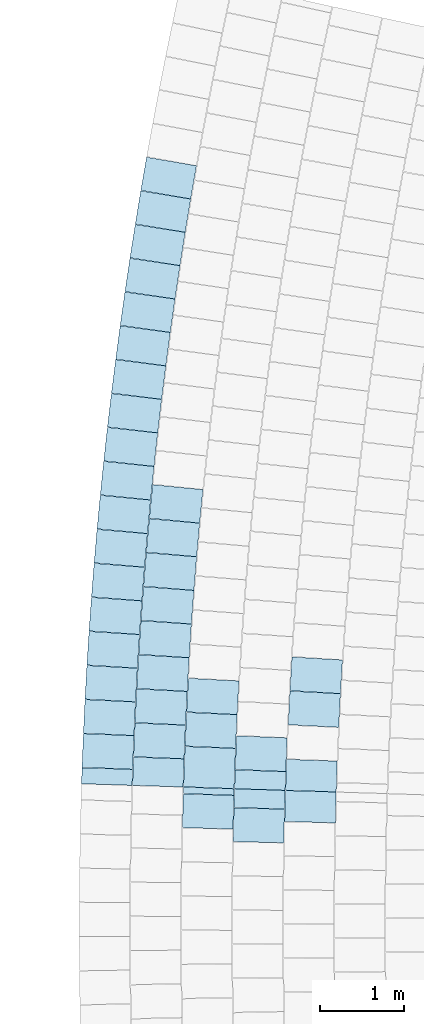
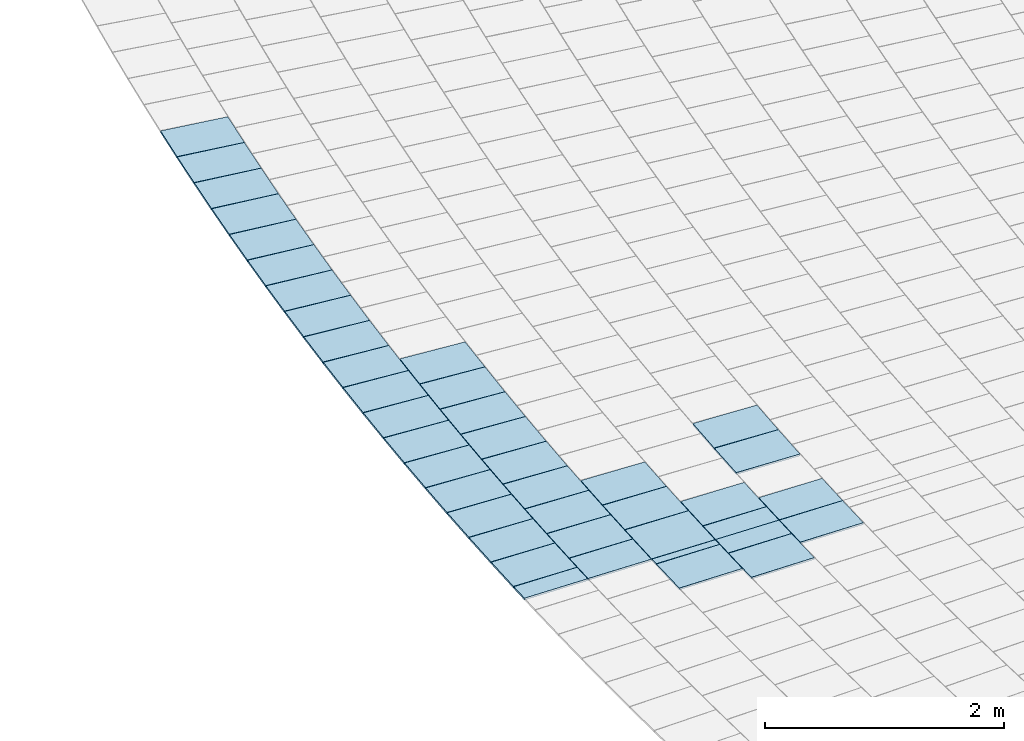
# One storey, part 85 of 438: 41 slabs.
"""IFC2X3 building model written with IfcOpenShell, lengths in millimetres."""

import ifcopenshell
import ifcopenshell.guid

model = None  # the IFC model being written
_history = None  # IfcOwnerHistory: only IFC2X3 demands one
_inside = {}  # id of a spatial element -> (the spatial element, [elements in it])
_under = {}  # id of a project, library or spatial element -> (it, [spatial elements below it])
_declared = {}  # id of a project -> (the project, [libraries it declares])
_typed = {}  # id of a type object -> (the type object, [elements of that type])
_made_of = {}  # id of a material, layer set ... -> (it, [elements and type objects made of it])


def new_model(schema):
    """Start an empty IFC model of exactly this schema.

    Asked for "IFC4X3", IfcOpenShell would pick the latest addendum, in which some entities
    have other attributes; the version numbers below select the first issue.
    IFC2X3 requires an IfcOwnerHistory on every rooted entity: one is made here for all.
    """
    global model, _history
    if schema == "IFC4X3":
        model = ifcopenshell.file(schema_version=(4, 3, 0, 0))
    else:
        model = ifcopenshell.file(schema=schema)
    _inside.clear()
    _under.clear()
    _declared.clear()
    _typed.clear()
    _made_of.clear()
    _history = None
    if model.schema == "IFC2X3":
        org = make("IfcOrganization", Name="unknown")
        user = make(
            "IfcPersonAndOrganization",
            ThePerson=make("IfcPerson", FamilyName="unknown"),
            TheOrganization=org,
        )
        app = make(
            "IfcApplication",
            ApplicationDeveloper=org,
            Version="unknown",
            ApplicationFullName="unknown",
            ApplicationIdentifier="unknown",
        )
        _history = make(
            "IfcOwnerHistory",
            OwningUser=user,
            OwningApplication=app,
            ChangeAction="ADDED",
            CreationDate=0,
        )
    return model


def make(cls, **values):
    """One entity of the class cls with the attributes given. An attribute that is None is left unset."""
    return model.create_entity(
        cls, **{name: value for name, value in values.items() if value is not None}
    )


def entity(cls, *values):
    """Any entity or typed value of the class cls, its attributes in the order of the schema. None: left unset."""
    e = model.create_entity(cls)
    for i, value in enumerate(values):
        if value is not None:
            e[i] = value
    return e


def rooted(cls, **values):
    """An entity with a GlobalId (a new one), such as an element, a storey or a relation."""
    return make(cls, GlobalId=ifcopenshell.guid.new(), OwnerHistory=_history, **values)


def si_unit(unit_type, name, prefix=None):
    """IfcSIUnit, for example si_unit("LENGTHUNIT", "METRE", prefix="MILLI")."""
    return make("IfcSIUnit", UnitType=unit_type, Prefix=prefix, Name=name)


def converted_unit(unit_type, name, factor, base, dimensions=None, offset=None):
    """IfcConversionBasedUnit, such as the inch: factor (a typed value) times the base unit."""
    return make(
        "IfcConversionBasedUnit"
        if offset is None
        else "IfcConversionBasedUnitWithOffset",
        ConversionOffset=offset,
        Dimensions=None
        if dimensions is None
        else entity("IfcDimensionalExponents", *dimensions),
        UnitType=unit_type,
        Name=name,
        ConversionFactor=make(
            "IfcMeasureWithUnit", ValueComponent=factor, UnitComponent=base
        ),
    )


def derived_unit(unit_type, elements):
    """IfcDerivedUnit: a product of units, each with its exponent."""
    return make(
        "IfcDerivedUnit",
        Elements=[
            make("IfcDerivedUnitElement", Unit=unit, Exponent=power)
            for unit, power in elements
        ],
        UnitType=unit_type,
    )


def assignment(units):
    """IfcUnitAssignment: the units of a project."""
    return None if units is None else make("IfcUnitAssignment", Units=units)


def point(xyz):
    """IfcCartesianPoint."""
    return None if xyz is None else make("IfcCartesianPoint", Coordinates=xyz)


def direction(xyz):
    """IfcDirection."""
    return None if xyz is None else make("IfcDirection", DirectionRatios=xyz)


def frame(location, z_axis=None, x_axis=None):
    """IfcAxis2Placement3D, a coordinate frame: its origin and axes. An axis left out is left unset."""
    return make(
        "IfcAxis2Placement3D",
        Location=point(location),
        Axis=direction(z_axis),
        RefDirection=direction(x_axis),
    )


def origin():
    """The frame at (0, 0, 0) with its axes left unset."""
    return frame((0.0, 0.0, 0.0))


def place(relative_to, where):
    """IfcLocalPlacement: puts the frame where relative to a parent placement (None: the world)."""
    return make(
        "IfcLocalPlacement", PlacementRelTo=relative_to, RelativePlacement=where
    )


def context(
    kind, dimensions, precision=None, world=None, true_north=None, identifier=None
):
    """IfcGeometricRepresentationContext, for example the 3D "Model" context."""
    return make(
        "IfcGeometricRepresentationContext",
        ContextIdentifier=identifier,
        ContextType=kind,
        CoordinateSpaceDimension=dimensions,
        Precision=precision,
        WorldCoordinateSystem=world,
        TrueNorth=true_north,
    )


def subcontext(parent, identifier, kind, view, scale=None):
    """IfcGeometricRepresentationSubContext, for example "Body" below "Model"."""
    return make(
        "IfcGeometricRepresentationSubContext",
        ContextIdentifier=identifier,
        ContextType=kind,
        ParentContext=parent,
        TargetScale=scale,
        TargetView=view,
    )


def project(units=None, contexts=None):
    """IfcProject with its units and contexts."""
    return rooted(
        "IfcProject",
        Name="project",
        RepresentationContexts=contexts,
        UnitsInContext=assignment(units),
    )


def spatial(cls, under=None, at=None, **own):
    """A site, building, storey or space (cls), placed at a placement, below another one or the project."""
    s = rooted(cls, ObjectPlacement=at, **own)
    if under is not None:
        _under.setdefault(under.id(), (under, []))[1].append(s)
    return s


def polyline(points):
    """IfcPolyline through the points."""
    return make("IfcPolyline", Points=[point(p) for p in points])


def outline(outer, holes=None, kind="AREA"):
    """IfcArbitraryClosedProfileDef: a profile drawn as a closed curve; with holes, ...WithVoids."""
    if holes is None:
        return make("IfcArbitraryClosedProfileDef", ProfileType=kind, OuterCurve=outer)
    return make(
        "IfcArbitraryProfileDefWithVoids",
        ProfileType=kind,
        OuterCurve=outer,
        InnerCurves=holes,
    )


def extrude(swept, where, along, depth):
    """IfcExtrudedAreaSolid: the profile swept, set in the frame where, extruded along a direction by depth."""
    return make(
        "IfcExtrudedAreaSolid",
        SweptArea=swept,
        Position=where,
        ExtrudedDirection=direction(along),
        Depth=depth,
    )


def shape(context_of_items, identifier, shape_type, items):
    """IfcShapeRepresentation: the items that make up one representation, for example the "Body"."""
    return make(
        "IfcShapeRepresentation",
        ContextOfItems=context_of_items,
        RepresentationIdentifier=identifier,
        RepresentationType=shape_type,
        Items=items,
    )


def material(Name=None, Category=None):
    """IfcMaterial."""
    return make("IfcMaterial", Name=Name, Category=Category)


def layer(
    of_material, thickness, ventilated=None, Name=None, Category=None, Priority=None
):
    """IfcMaterialLayer: one layer of a wall or slab, of a material (None: an air gap)."""
    return make(
        "IfcMaterialLayer",
        Material=of_material,
        LayerThickness=thickness,
        IsVentilated=ventilated,
        Name=Name,
        Category=Category,
        Priority=Priority,
    )


def layer_set(layers, Name=None):
    """IfcMaterialLayerSet."""
    return make("IfcMaterialLayerSet", MaterialLayers=layers, LayerSetName=Name)


def layer_usage(for_layer_set, set_direction, sense, offset, extent=None):
    """IfcMaterialLayerSetUsage: how a layer set lies in its element."""
    return make(
        "IfcMaterialLayerSetUsage",
        ForLayerSet=for_layer_set,
        LayerSetDirection=set_direction,
        DirectionSense=sense,
        OffsetFromReferenceLine=offset,
        ReferenceExtent=extent,
    )


def made_of(thing, what):
    """Note that an element or type object is made of a material, layer set ...; save() writes the relation."""
    if what is not None:
        _made_of.setdefault(what.id(), (what, []))[1].append(thing)
    return thing


def type_object(cls, material=None, **own):
    """A type object (cls), such as IfcWallType, which elements share."""
    return made_of(rooted(cls, **own), material)


def element(
    cls,
    number,
    at=None,
    inside=None,
    cuts=None,
    type_object=None,
    material=None,
    context=None,
    identifier="Body",
    shape_type=None,
    held_by="IfcProductDefinitionShape",
    body=None,
    shapes=None,
    **own,
):
    """One element of the class cls, such as IfcWall. Its Tag is "e" and its number.

    at: its placement. inside: the storey or other place that contains it. cuts: it is an
    opening in that element (IfcRelVoidsElement). A single representation is given by context,
    identifier, shape_type and body (its items); several are given by shapes. held_by: the class
    of the entity that holds the representations. save() writes the other relations.
    """
    e = rooted(cls, Tag="e%d" % number, ObjectPlacement=at, **own)
    if body is not None:
        shapes = [shape(context, identifier, shape_type, body)]
    if shapes is not None:
        e.Representation = make(held_by, Representations=shapes)
    if inside is not None:
        _inside.setdefault(inside.id(), (inside, []))[1].append(e)
    if cuts is not None:
        rooted(
            "IfcRelVoidsElement", RelatingBuildingElement=cuts, RelatedOpeningElement=e
        )
    if type_object is not None:
        _typed.setdefault(type_object.id(), (type_object, []))[1].append(e)
    return made_of(e, material)


def aggregate(whole, parts):
    """IfcRelAggregates: a whole, such as a stair, and the parts it consists of."""
    return rooted("IfcRelAggregates", RelatingObject=whole, RelatedObjects=parts)


def save(model, path):
    """Write the relations noted so far, then the file.

    IfcRelAggregates (storeys below a building ...), IfcRelContainedInSpatialStructure (elements
    in a storey), IfcRelDefinesByType, IfcRelAssociatesMaterial and IfcRelDeclares: one each for
    every whole, place, type object, material and project.
    """
    for whole, parts in _under.values():
        aggregate(whole, parts)
    for where, things in _inside.values():
        rooted(
            "IfcRelContainedInSpatialStructure",
            RelatedElements=things,
            RelatingStructure=where,
        )
    for kind, things in _typed.values():
        rooted("IfcRelDefinesByType", RelatedObjects=things, RelatingType=kind)
    for what, things in _made_of.values():
        rooted("IfcRelAssociatesMaterial", RelatedObjects=things, RelatingMaterial=what)
    for by, libraries in _declared.values():
        rooted("IfcRelDeclares", RelatingContext=by, RelatedDefinitions=libraries)
    model.write(path)


model = new_model("IFC2X3")

# Units and contexts
model_context = context("Model", 3, precision=0.01, world=origin(), true_north=direction((6.123031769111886e-17, 1.0)))
body_context = subcontext(model_context, "Body", "Model", "MODEL_VIEW")
ifc_project = project(units=[si_unit("LENGTHUNIT", "METRE", prefix="MILLI"), si_unit("AREAUNIT", "SQUARE_METRE"), si_unit("VOLUMEUNIT", "CUBIC_METRE"), converted_unit("PLANEANGLEUNIT", "DEGREE", entity("IfcRatioMeasure", 0.017453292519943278), si_unit("PLANEANGLEUNIT", "RADIAN"), dimensions=[0, 0, 0, 0, 0, 0, 0]), si_unit("MASSUNIT", "GRAM", prefix="KILO"), derived_unit("MASSDENSITYUNIT", [(si_unit("MASSUNIT", "GRAM", prefix="KILO"), 1), (si_unit("LENGTHUNIT", "METRE"), -3)]), derived_unit("MOMENTOFINERTIAUNIT", [(si_unit("LENGTHUNIT", "METRE"), 4)]), si_unit("TIMEUNIT", "SECOND"), si_unit("FREQUENCYUNIT", "HERTZ"), si_unit("THERMODYNAMICTEMPERATUREUNIT", "DEGREE_CELSIUS"), derived_unit("THERMALTRANSMITTANCEUNIT", [(si_unit("MASSUNIT", "GRAM", prefix="KILO"), 1), (si_unit("THERMODYNAMICTEMPERATUREUNIT", "KELVIN"), -1), (si_unit("TIMEUNIT", "SECOND"), -3)]), derived_unit("THERMALCONDUCTANCEUNIT", [(si_unit("MASSUNIT", "GRAM", prefix="KILO"), 1), (si_unit("LENGTHUNIT", "METRE"), 1), (si_unit("THERMODYNAMICTEMPERATUREUNIT", "KELVIN"), -1), (si_unit("TIMEUNIT", "SECOND"), -3)]), derived_unit("VOLUMETRICFLOWRATEUNIT", [(si_unit("LENGTHUNIT", "METRE"), 3), (si_unit("TIMEUNIT", "SECOND"), -1)]), derived_unit("MASSFLOWRATEUNIT", [(si_unit("MASSUNIT", "GRAM", prefix="KILO"), 1), (si_unit("TIMEUNIT", "SECOND"), -1)]), derived_unit("ROTATIONALFREQUENCYUNIT", [(si_unit("TIMEUNIT", "SECOND"), -1)]), si_unit("ELECTRICCURRENTUNIT", "AMPERE"), si_unit("ELECTRICVOLTAGEUNIT", "VOLT"), si_unit("POWERUNIT", "WATT"), converted_unit("FORCEUNIT", "KIP", entity("IfcRatioMeasure", 2.088543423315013e-05), si_unit("FORCEUNIT", "NEWTON"), dimensions=[1, 1, -2, 0, 0, 0, 0]), si_unit("ILLUMINANCEUNIT", "LUX"), si_unit("LUMINOUSFLUXUNIT", "LUMEN"), si_unit("LUMINOUSINTENSITYUNIT", "CANDELA"), derived_unit("USERDEFINED", [(si_unit("MASSUNIT", "GRAM", prefix="KILO"), -1), (si_unit("LENGTHUNIT", "METRE"), -2), (si_unit("TIMEUNIT", "SECOND"), 3), (si_unit("LUMINOUSFLUXUNIT", "LUMEN"), 1)]), derived_unit("USERDEFINED", [(si_unit("MASSUNIT", "GRAM", prefix="KILO"), 1), (si_unit("LENGTHUNIT", "METRE"), 3), (si_unit("TIMEUNIT", "SECOND"), -3), (si_unit("ELECTRICCURRENTUNIT", "AMPERE"), -2)]), derived_unit("USERDEFINED", [(si_unit("LENGTHUNIT", "METRE"), 2), (si_unit("TIMEUNIT", "SECOND"), -2)]), derived_unit("SOUNDPOWERUNIT", [(si_unit("MASSUNIT", "GRAM", prefix="KILO"), 1), (si_unit("LENGTHUNIT", "METRE"), 2), (si_unit("TIMEUNIT", "SECOND"), -3)]), derived_unit("SOUNDPRESSUREUNIT", [(si_unit("MASSUNIT", "GRAM", prefix="KILO"), 1), (si_unit("LENGTHUNIT", "METRE"), -1), (si_unit("TIMEUNIT", "SECOND"), -2)]), derived_unit("LINEARVELOCITYUNIT", [(si_unit("LENGTHUNIT", "METRE"), 1), (si_unit("TIMEUNIT", "SECOND"), -1)]), si_unit("PRESSUREUNIT", "PASCAL"), derived_unit("USERDEFINED", [(si_unit("LENGTHUNIT", "METRE"), -2), (si_unit("MASSUNIT", "GRAM", prefix="KILO"), 1), (si_unit("TIMEUNIT", "SECOND"), -2)]), derived_unit("LINEARFORCEUNIT", [(si_unit("MASSUNIT", "GRAM", prefix="KILO"), 1), (si_unit("LENGTHUNIT", "METRE"), 1), (si_unit("TIMEUNIT", "SECOND"), -2), (si_unit("LENGTHUNIT", "METRE"), -1)]), derived_unit("PLANARFORCEUNIT", [(si_unit("MASSUNIT", "GRAM", prefix="KILO"), 1), (si_unit("LENGTHUNIT", "METRE"), 1), (si_unit("TIMEUNIT", "SECOND"), -2), (si_unit("LENGTHUNIT", "METRE"), -2)]), derived_unit("SPECIFICHEATCAPACITYUNIT", [(si_unit("LENGTHUNIT", "METRE"), 2), (si_unit("TIMEUNIT", "SECOND"), -2), (si_unit("THERMODYNAMICTEMPERATUREUNIT", "KELVIN"), -1)]), derived_unit("VAPORPERMEABILITYUNIT", [(si_unit("TIMEUNIT", "SECOND"), 1), (si_unit("LENGTHUNIT", "METRE"), -1)]), derived_unit("DYNAMICVISCOSITYUNIT", [(si_unit("MASSUNIT", "GRAM", prefix="KILO"), 1), (si_unit("LENGTHUNIT", "METRE"), -1), (si_unit("TIMEUNIT", "SECOND"), -1)]), derived_unit("THERMALEXPANSIONCOEFFICIENTUNIT", [(si_unit("THERMODYNAMICTEMPERATUREUNIT", "KELVIN"), -1)])], contexts=[model_context])

# Site, building, storey
site_placement = place(None, frame((0.0, 0.0, 0.0), z_axis=(0.0, 0.0, 1.0), x_axis=(0.8191520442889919, 0.5735764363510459, 0.0)))
site = spatial("IfcSite", under=ifc_project, at=site_placement, Name="Default", CompositionType="ELEMENT")
building_placement = place(site_placement, origin())
building = spatial("IfcBuilding", under=site, at=building_placement, CompositionType="ELEMENT")
storey_placement = place(building_placement, origin())
storey = spatial("IfcBuildingStorey", under=building, at=storey_placement, Name="PLAN", CompositionType="ELEMENT", Elevation=0.0)

# Slabs
ifc_material = material(Name="Paint-01")
ifc_layer = layer(ifc_material, 20.00000000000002)
ifc_layer_set = layer_set([ifc_layer], Name="Floor:Slab-179:1000")
ifc_layer_usage = layer_usage(ifc_layer_set, "AXIS3", "POSITIVE", 0.0)
slab_type = type_object("IfcSlabType", Name="Floor:Slab-179:1000", PredefinedType="FLOOR", material=ifc_layer_set)
slab_1_placement = place(storey_placement, origin())
element("IfcSlab", 1, at=slab_1_placement, inside=storey, type_object=slab_type, material=ifc_layer_usage, Name="Floor:Slab-179:1000", ObjectType="Floor:Slab-179:1000", PredefinedType="FLOOR", context=body_context, shape_type="SweptSolid", body=[
    extrude(outline(polyline([(-300.0, -183.4419543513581), (299.99999771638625, -183.4419543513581), (300.0, 183.44195435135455), (-299.99999771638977, 183.44195435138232), (-300.0, -183.4419543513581)])), frame((-80222.32124859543, -38273.541261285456, 520.0), z_axis=(0.0, 0.0, -1.0), x_axis=(0.8022186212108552, -0.5970303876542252, 0.0)), (0.0, 0.0, 1.0), 20.000000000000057),
])
slab_2_placement = place(storey_placement, origin())
element("IfcSlab", 2, at=slab_2_placement, inside=storey, type_object=slab_type, material=ifc_layer_usage, Name="Floor:Slab-179:1000", ObjectType="Floor:Slab-179:1000", PredefinedType="FLOOR", context=body_context, shape_type="SweptSolid", body=[
    extrude(outline(polyline([(-300.0, -200.0000029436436), (299.9999976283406, -200.00000294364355), (300.0, 200.00000294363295), (-299.9999976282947, 200.00000294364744), (-300.0, -200.0000029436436)])), frame((-80849.72686657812, -38104.31098060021, 520.0), z_axis=(0.0, 0.0, -1.0), x_axis=(0.8052376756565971, -0.5929521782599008, 0.0)), (0.0, 0.0, 1.0), 20.000000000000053),
])
slab_3_placement = place(storey_placement, origin())
element("IfcSlab", 3, at=slab_3_placement, inside=storey, type_object=slab_type, material=ifc_layer_usage, Name="Floor:Slab-179:1000", ObjectType="Floor:Slab-179:1000", PredefinedType="FLOOR", context=body_context, shape_type="SweptSolid", body=[
    extrude(outline(polyline([(-299.99999869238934, -111.39281443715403), (299.99999869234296, -111.39281443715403), (299.999998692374, 111.39281603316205), (-299.9999986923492, 111.39281284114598), (-299.99999869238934, -111.39281443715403)])), frame((-80662.94085803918, -37852.17100354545, 520.0), z_axis=(0.0, 0.0, -1.0), x_axis=(0.8004712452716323, -0.5993711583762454, 0.0)), (0.0, 0.0, 1.0), 20.000000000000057),
])
slab_4_placement = place(storey_placement, origin())
element("IfcSlab", 4, at=slab_4_placement, inside=storey, type_object=slab_type, material=ifc_layer_usage, Name="Floor:Slab-179:1000", ObjectType="Floor:Slab-179:1000", PredefinedType="FLOOR", context=body_context, shape_type="SweptSolid", body=[
    extrude(outline(polyline([(-300.0, -200.0000029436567), (299.9999976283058, -200.0000029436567), (300.0, 200.00000294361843), (-299.999997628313, 200.00000294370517), (-300.0, -200.0000029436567)])), frame((-81247.71898749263, -37624.84465471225, 520.0), z_axis=(0.0, 0.0, -1.0), x_axis=(0.8034868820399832, -0.5953224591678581, 0.0)), (0.0, 0.0, 1.0), 19.99999999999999),
])
slab_5_placement = place(storey_placement, origin())
element("IfcSlab", 5, at=slab_5_placement, inside=storey, type_object=slab_type, material=ifc_layer_usage, Name="Floor:Slab-179:1000", ObjectType="Floor:Slab-179:1000", PredefinedType="FLOOR", context=body_context, shape_type="SweptSolid", body=[
    extrude(outline(polyline([(-299.99999889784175, -38.62511495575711), (299.99999848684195, -38.62511495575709), (299.9999988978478, 38.6251149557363), (-299.9999984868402, 38.62511495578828), (-299.99999889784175, -38.62511495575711)])), frame((-81103.99729635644, -37431.39653392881, 520.0), z_axis=(0.0, 0.0, -1.0), x_axis=(0.798759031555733, -0.6016510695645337, 0.0)), (0.0, 0.0, 1.0), 20.000000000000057),
])
slab_6_placement = place(storey_placement, origin())
element("IfcSlab", 6, at=slab_6_placement, inside=storey, type_object=slab_type, material=ifc_layer_usage, Name="Floor:Slab-179:1000", ObjectType="Floor:Slab-179:1000", PredefinedType="FLOOR", context=body_context, shape_type="SweptSolid", body=[
    extrude(outline(polyline([(-300.0, -200.00000294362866), (299.9999976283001, -200.00000294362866), (300.0, 200.0000029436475), (-299.99999762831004, 200.0000029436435), (-300.0, -200.00000294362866)])), frame((-78985.19593760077, -32958.06467277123, 520.0), z_axis=(0.0, 0.0, -1.0), x_axis=(0.7414532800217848, -0.6710044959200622, 0.0)), (0.0, 0.0, 1.0), 20.000000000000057),
])
slab_7_placement = place(storey_placement, origin())
element("IfcSlab", 7, at=slab_7_placement, inside=storey, type_object=slab_type, material=ifc_layer_usage, Name="Floor:Slab-179:1000", ObjectType="Floor:Slab-179:1000", PredefinedType="FLOOR", context=body_context, shape_type="SweptSolid", body=[
    extrude(outline(polyline([(-299.99999762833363, -200.0000029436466), (300.0, -200.0000029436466), (299.9999976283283, 200.00000294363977), (-300.0, 200.0000029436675), (-299.99999762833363, -200.0000029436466)])), frame((-79521.2399582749, -37353.40838821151, 520.0), z_axis=(0.0, 0.0, -1.0), x_axis=(0.7883182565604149, -0.6152676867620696, 0.0)), (0.0, 0.0, 1.0), 20.000000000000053),
])
slab_8_placement = place(storey_placement, origin())
element("IfcSlab", 8, at=slab_8_placement, inside=storey, type_object=slab_type, material=ifc_layer_usage, Name="Floor:Slab-179:1000", ObjectType="Floor:Slab-179:1000", PredefinedType="FLOOR", context=body_context, shape_type="SweptSolid", body=[
    extrude(outline(polyline([(-299.9999976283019, -200.000002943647), (300.0, -200.000002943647), (299.9999976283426, 200.0000029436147), (-300.0, 200.0000029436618), (-299.9999976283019, -200.000002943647)])), frame((-79272.3594058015, -37037.17421032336, 520.0), z_axis=(0.0, 0.0, -1.0), x_axis=(0.7833131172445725, -0.6216273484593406, 0.0)), (0.0, 0.0, 1.0), 20.000000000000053),
])
slab_9_placement = place(storey_placement, origin())
element("IfcSlab", 9, at=slab_9_placement, inside=storey, type_object=slab_type, material=ifc_layer_usage, Name="Floor:Slab-179:1000", ObjectType="Floor:Slab-179:1000", PredefinedType="FLOOR", context=body_context, shape_type="SweptSolid", body=[
    extrude(outline(polyline([(-299.99999771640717, -183.44195435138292), (300.0, -183.44195435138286), (299.99999771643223, 183.4419543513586), (-300.0, 183.44195435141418), (-299.99999771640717, -183.44195435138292)])), frame((-80001.3076582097, -37978.65116410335, 520.0), z_axis=(0.0, 0.0, -1.0), x_axis=(0.798173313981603, -0.6024278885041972, 0.0)), (0.0, 0.0, 1.0), 20.000000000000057),
])
slab_10_placement = place(storey_placement, origin())
element("IfcSlab", 10, at=slab_10_placement, inside=storey, type_object=slab_type, material=ifc_layer_usage, Name="Floor:Slab-179:1000", ObjectType="Floor:Slab-179:1000", PredefinedType="FLOOR", context=body_context, shape_type="SweptSolid", body=[
    extrude(outline(polyline([(-299.9999980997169, -111.39281523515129), (299.9999992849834, -111.39281523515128), (299.99999809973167, 111.39281523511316), (-299.999999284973, 111.39281523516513), (-299.9999980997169, -111.39281523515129)])), frame((-80529.4003921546, -37673.99299696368, 520.0), z_axis=(0.0, 0.0, -1.0), x_axis=(0.7999296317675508, -0.6000938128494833, 0.0)), (0.0, 0.0, 1.0), 20.000000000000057),
])
slab_11_placement = place(storey_placement, origin())
element("IfcSlab", 11, at=slab_11_placement, inside=storey, type_object=slab_type, material=ifc_layer_usage, Name="Floor:Slab-179:1000", ObjectType="Floor:Slab-179:1000", PredefinedType="FLOOR", context=body_context, shape_type="SweptSolid", body=[
    extrude(outline(polyline([(-299.99999762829, -200.00000294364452), (300.0, -200.00000294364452), (299.99999762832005, 200.00000294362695), (-300.0, 200.0000029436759), (-299.99999762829, -200.00000294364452)])), frame((-80339.81321683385, -37423.95243131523, 520.0), z_axis=(0.0, 0.0, -1.0), x_axis=(0.7951062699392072, -0.6064701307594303, 0.0)), (0.0, 0.0, 1.0), 20.000000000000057),
])
slab_12_placement = place(storey_placement, origin())
element("IfcSlab", 12, at=slab_12_placement, inside=storey, type_object=slab_type, material=ifc_layer_usage, Name="Floor:Slab-179:1000", ObjectType="Floor:Slab-179:1000", PredefinedType="FLOOR", context=body_context, shape_type="SweptSolid", body=[
    extrude(outline(polyline([(-299.9999974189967, -239.3443465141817), (300.0, -239.34434651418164), (299.9999974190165, 239.3443465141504), (-300.0, 239.34434651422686), (-299.9999974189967, -239.3443465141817)])), frame((-80935.47311753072, -37207.8659573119, 520.0), z_axis=(0.0, 0.0, -1.0), x_axis=(0.7968899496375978, -0.6041244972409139, 0.0)), (0.0, 0.0, 1.0), 19.99999999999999),
])
slab_13_placement = place(storey_placement, origin())
element("IfcSlab", 13, at=slab_13_placement, inside=storey, type_object=slab_type, material=ifc_layer_usage, Name="Floor:Slab-179:1000", ObjectType="Floor:Slab-179:1000", PredefinedType="FLOOR", context=body_context, shape_type="SweptSolid", body=[
    extrude(outline(polyline([(-299.99999762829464, -200.0000029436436), (300.0, -200.00000294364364), (299.999997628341, 200.00000294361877), (-300.0, 200.00000294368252), (-299.99999762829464, -200.0000029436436)])), frame((-80667.36003549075, -36856.83342942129, 520.0), z_axis=(0.0, 0.0, -1.0), x_axis=(0.7920927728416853, -0.6104007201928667, 0.0)), (0.0, 0.0, 1.0), 20.000000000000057),
])
slab_14_placement = place(storey_placement, origin())
element("IfcSlab", 14, at=slab_14_placement, inside=storey, type_object=slab_type, material=ifc_layer_usage, Name="Floor:Slab-179:1000", ObjectType="Floor:Slab-179:1000", PredefinedType="FLOOR", context=body_context, shape_type="SweptSolid", body=[
    extrude(outline(polyline([(-299.9999976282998, -200.000002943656), (300.0, -200.000002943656), (299.9999976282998, 200.000002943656), (-300.0, 200.0000029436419), (-299.9999976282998, -200.000002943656)])), frame((-80420.49813555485, -36539.09419746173, 520.0), z_axis=(0.0, 0.0, -1.0), x_axis=(0.7872461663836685, -0.6166388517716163, 0.0)), (0.0, 0.0, 1.0), 20.000000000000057),
])
slab_15_placement = place(storey_placement, origin())
element("IfcSlab", 15, at=slab_15_placement, inside=storey, type_object=slab_type, material=ifc_layer_usage, Name="Floor:Slab-179:1000", ObjectType="Floor:Slab-179:1000", PredefinedType="FLOOR", context=body_context, shape_type="SweptSolid", body=[
    extrude(outline(polyline([(-299.99999762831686, -200.00000294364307), (300.0, -200.00000294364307), (299.9999976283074, 200.00000294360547), (-300.0, 200.0000029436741), (-299.99999762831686, -200.00000294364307)])), frame((-79467.13789717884, -34420.90690597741, 520.0), z_axis=(0.0, 0.0, -1.0), x_axis=(0.7595076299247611, -0.6504983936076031, 0.0)), (0.0, 0.0, 1.0), 20.000000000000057),
])
slab_16_placement = place(storey_placement, origin())
element("IfcSlab", 16, at=slab_16_placement, inside=storey, type_object=slab_type, material=ifc_layer_usage, Name="Floor:Slab-179:1000", ObjectType="Floor:Slab-179:1000", PredefinedType="FLOOR", context=body_context, shape_type="SweptSolid", body=[
    extrude(outline(polyline([(-299.9999976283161, -200.0000029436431), (300.0, -200.00000294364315), (299.99999762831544, 200.00000294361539), (-300.0, 200.00000294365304), (-299.9999976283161, -200.0000029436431)])), frame((-79727.66395785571, -34727.50555432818, 520.0), z_axis=(0.0, 0.0, -1.0), x_axis=(0.7645624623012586, -0.6445496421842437, 0.0)), (0.0, 0.0, 1.0), 20.000000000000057),
])
slab_17_placement = place(storey_placement, origin())
element("IfcSlab", 17, at=slab_17_placement, inside=storey, type_object=slab_type, material=ifc_layer_usage, Name="Floor:Slab-179:1000", ObjectType="Floor:Slab-179:1000", PredefinedType="FLOOR", context=body_context, shape_type="SweptSolid", body=[
    extrude(outline(polyline([(-299.99999762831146, -200.0000029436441), (300.0, -200.00000294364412), (299.9999976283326, 200.00000294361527), (-300.0, 200.00000294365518), (-299.99999762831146, -200.0000029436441)])), frame((-79985.78868479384, -35036.12860078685, 520.0), z_axis=(0.0, 0.0, -1.0), x_axis=(0.7695707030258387, -0.6385616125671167, 0.0)), (0.0, 0.0, 1.0), 19.99999999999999),
])
slab_18_placement = place(storey_placement, origin())
element("IfcSlab", 18, at=slab_18_placement, inside=storey, type_object=slab_type, material=ifc_layer_usage, Name="Floor:Slab-179:1000", ObjectType="Floor:Slab-179:1000", PredefinedType="FLOOR", context=body_context, shape_type="SweptSolid", body=[
    extrude(outline(polyline([(-299.99999762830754, -200.00000294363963), (300.0, -200.0000029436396), (299.99999762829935, 200.00000294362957), (-300.0, 200.00000294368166), (-299.99999762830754, -200.00000294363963)])), frame((-80241.49634813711, -35346.75723818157, 520.0), z_axis=(0.0, 0.0, -1.0), x_axis=(0.7745320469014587, -0.6325346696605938, 0.0)), (0.0, 0.0, 1.0), 20.000000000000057),
])
slab_19_placement = place(storey_placement, origin())
element("IfcSlab", 19, at=slab_19_placement, inside=storey, type_object=slab_type, material=ifc_layer_usage, Name="Floor:Slab-179:1000", ObjectType="Floor:Slab-179:1000", PredefinedType="FLOOR", context=body_context, shape_type="SweptSolid", body=[
    extrude(outline(polyline([(-299.99999762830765, -200.00000294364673), (300.0, -200.0000029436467), (299.99999762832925, 200.00000294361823), (-300.0, 200.0000029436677), (-299.99999762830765, -200.00000294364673)])), frame((-80494.7713653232, -35659.37253712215, 520.0), z_axis=(0.0, 0.0, -1.0), x_axis=(0.7794461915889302, -0.626469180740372, 0.0)), (0.0, 0.0, 1.0), 20.000000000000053),
])
slab_20_placement = place(storey_placement, origin())
element("IfcSlab", 20, at=slab_20_placement, inside=storey, type_object=slab_type, material=ifc_layer_usage, Name="Floor:Slab-179:1000", ObjectType="Floor:Slab-179:1000", PredefinedType="FLOOR", context=body_context, shape_type="SweptSolid", body=[
    extrude(outline(polyline([(-299.99999762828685, -200.00000294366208), (300.0, -200.00000294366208), (299.9999976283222, 200.0000029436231), (-300.0, 200.00000294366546), (-299.99999762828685, -200.00000294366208)])), frame((-80745.5983020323, -35973.95544715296, 520.0), z_axis=(0.0, 0.0, -1.0), x_axis=(0.7843128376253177, -0.6203655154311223, 0.0)), (0.0, 0.0, 1.0), 20.000000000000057),
])
slab_21_placement = place(storey_placement, origin())
element("IfcSlab", 21, at=slab_21_placement, inside=storey, type_object=slab_type, material=ifc_layer_usage, Name="Floor:Slab-179:1000", ObjectType="Floor:Slab-179:1000", PredefinedType="FLOOR", context=body_context, shape_type="SweptSolid", body=[
    extrude(outline(polyline([(-299.9999976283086, -200.0000029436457), (300.0, -200.00000294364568), (299.9999976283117, 200.00000294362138), (-300.0, 200.00000294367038), (-299.9999976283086, -200.0000029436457)])), frame((-80993.96187312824, -36290.48679791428, 520.0), z_axis=(0.0, 0.0, -1.0), x_axis=(0.7891316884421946, -0.6142240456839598, 0.0)), (0.0, 0.0, 1.0), 20.000000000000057),
])
slab_22_placement = place(storey_placement, origin())
element("IfcSlab", 22, at=slab_22_placement, inside=storey, type_object=slab_type, material=ifc_layer_usage, Name="Floor:Slab-179:1000", ObjectType="Floor:Slab-179:1000", PredefinedType="FLOOR", context=body_context, shape_type="SweptSolid", body=[
    extrude(outline(polyline([(-299.9999976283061, -200.00000294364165), (300.0, -200.00000294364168), (299.99999762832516, 200.000002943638), (-300.0, 200.00000294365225), (-299.9999976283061, -200.00000294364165)])), frame((-81239.84694358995, -36608.947300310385, 520.0), z_axis=(0.0, 0.0, -1.0), x_axis=(0.7939024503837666, -0.6080451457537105, 0.0)), (0.0, 0.0, 1.0), 20.000000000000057),
])
slab_23_placement = place(storey_placement, origin())
element("IfcSlab", 23, at=slab_23_placement, inside=storey, type_object=slab_type, material=ifc_layer_usage, Name="Floor:Slab-179:1000", ObjectType="Floor:Slab-179:1000", PredefinedType="FLOOR", context=body_context, shape_type="SweptSolid", body=[
    extrude(outline(polyline([(-300.0, -200.00000294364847), (299.99999762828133, -200.00000294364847), (300.0, 200.00000294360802), (-299.9999976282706, 200.00000294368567), (-300.0, -200.00000294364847)])), frame((-78714.0943402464, -32660.813010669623, 520.0), z_axis=(0.0, 0.0, -1.0), x_axis=(0.7362542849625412, -0.6767049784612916, 0.0)), (0.0, 0.0, 1.0), 20.000000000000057),
])
slab_24_placement = place(storey_placement, origin())
element("IfcSlab", 24, at=slab_24_placement, inside=storey, type_object=slab_type, material=ifc_layer_usage, Name="Floor:Slab-179:1000", ObjectType="Floor:Slab-179:1000", PredefinedType="FLOOR", context=body_context, shape_type="SweptSolid", body=[
    extrude(outline(polyline([(-300.0, -200.00000294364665), (299.99999762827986, -200.00000294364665), (300.0, 200.00000294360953), (-299.9999976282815, 200.00000294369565), (-300.0, -200.00000294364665)])), frame((-78440.7074583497, -32365.661796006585, 520.0), z_axis=(0.0, 0.0, -1.0), x_axis=(0.7310114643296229, -0.6823651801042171, 0.0)), (0.0, 0.0, 1.0), 20.000000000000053),
])
slab_25_placement = place(storey_placement, origin())
element("IfcSlab", 25, at=slab_25_placement, inside=storey, type_object=slab_type, material=ifc_layer_usage, Name="Floor:Slab-179:1000", ObjectType="Floor:Slab-179:1000", PredefinedType="FLOOR", context=body_context, shape_type="SweptSolid", body=[
    extrude(outline(polyline([(-299.9999978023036, -167.29426668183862), (300.0, -167.29426668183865), (299.99999780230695, 167.2942666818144), (-300.0, 167.2942666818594), (-299.9999978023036, -167.29426668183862)])), frame((-81463.55526246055, -36903.19793463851, 520.0), z_axis=(0.0, 0.0, -1.0), x_axis=(0.7986248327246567, -0.6018291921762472, 0.0)), (0.0, 0.0, 1.0), 19.999999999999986),
])
slab_26_placement = place(storey_placement, origin())
element("IfcSlab", 26, at=slab_26_placement, inside=storey, type_object=slab_type, material=ifc_layer_usage, Name="Floor:Slab-179:1000", ObjectType="Floor:Slab-179:1000", PredefinedType="FLOOR", context=body_context, shape_type="SweptSolid", body=[
    extrude(outline(polyline([(-300.0, -200.00000294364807), (299.99999762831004, -200.00000294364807), (300.0, 200.00000294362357), (-299.99999762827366, 200.0000029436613), (-300.0, -200.00000294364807)])), frame((-78165.05156527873, -32072.628597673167, 520.0), z_axis=(0.0, 0.0, -1.0), x_axis=(0.7257251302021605, -0.6879847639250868, 0.0)), (0.0, 0.0, 1.0), 20.000000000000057),
])
slab_27_placement = place(storey_placement, origin())
element("IfcSlab", 27, at=slab_27_placement, inside=storey, type_object=slab_type, material=ifc_layer_usage, Name="Floor:Slab-179:1000", ObjectType="Floor:Slab-179:1000", PredefinedType="FLOOR", context=body_context, shape_type="SweptSolid", body=[
    extrude(outline(polyline([(-300.0, -200.00000294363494), (299.999997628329, -200.00000294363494), (300.0, 200.00000294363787), (-299.999997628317, 200.00000294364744), (-300.0, -200.00000294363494)])), frame((-77887.14306946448, -31781.730858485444, 520.0), z_axis=(0.0, 0.0, -1.0), x_axis=(0.7203955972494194, -0.6935633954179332, 0.0)), (0.0, 0.0, 1.0), 20.000000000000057),
])
slab_28_placement = place(storey_placement, origin())
element("IfcSlab", 28, at=slab_28_placement, inside=storey, type_object=slab_type, material=ifc_layer_usage, Name="Floor:Slab-179:1000", ObjectType="Floor:Slab-179:1000", PredefinedType="FLOOR", context=body_context, shape_type="SweptSolid", body=[
    extrude(outline(polyline([(-300.0, -200.0000029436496), (299.9999976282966, -200.00000294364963), (300.0, 200.00000294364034), (-299.9999976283, 200.00000294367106), (-300.0, -200.0000029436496)])), frame((-77606.99851342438, -31492.98589414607, 520.0), z_axis=(0.0, 0.0, -1.0), x_axis=(0.7150231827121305, -0.6991007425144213, 0.0)), (0.0, 0.0, 1.0), 19.99999999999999),
])
slab_29_placement = place(storey_placement, origin())
element("IfcSlab", 29, at=slab_29_placement, inside=storey, type_object=slab_type, material=ifc_layer_usage, Name="Floor:Slab-179:1000", ObjectType="Floor:Slab-179:1000", PredefinedType="FLOOR", context=body_context, shape_type="SweptSolid", body=[
    extrude(outline(polyline([(-300.0, -200.00000294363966), (299.99999762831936, -200.00000294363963), (300.0, 200.00000294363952), (-299.9999976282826, 200.00000294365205), (-300.0, -200.00000294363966)])), frame((-77324.6345727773, -31206.410892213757, 520.0), z_axis=(0.0, 0.0, -1.0), x_axis=(0.7096082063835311, -0.7045964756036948, 0.0)), (0.0, 0.0, 1.0), 20.000000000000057),
])
slab_30_placement = place(storey_placement, origin())
element("IfcSlab", 30, at=slab_30_placement, inside=storey, type_object=slab_type, material=ifc_layer_usage, Name="Floor:Slab-179:1000", ObjectType="Floor:Slab-179:1000", PredefinedType="FLOOR", context=body_context, shape_type="SweptSolid", body=[
    extrude(outline(polyline([(-299.9999976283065, -200.00000294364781), (300.0, -200.00000294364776), (299.9999976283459, 200.00000294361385), (-300.0, 200.00000294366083), (-299.9999976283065, -200.00000294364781)])), frame((-79784.6283349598, -33862.24478568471, 520.0), z_axis=(0.0, 0.0, -1.0), x_axis=(0.7567842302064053, -0.6536647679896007, 0.0)), (0.0, 0.0, 1.0), 20.000000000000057),
])
slab_31_placement = place(storey_placement, origin())
element("IfcSlab", 31, at=slab_31_placement, inside=storey, type_object=slab_type, material=ifc_layer_usage, Name="Floor:Slab-179:1000", ObjectType="Floor:Slab-179:1000", PredefinedType="FLOOR", context=body_context, shape_type="SweptSolid", body=[
    extrude(outline(polyline([(-299.9999976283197, -200.00000294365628), (300.0, -200.00000294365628), (299.9999976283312, 200.000002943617), (-300.0, 200.00000294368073), (-299.9999976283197, -200.00000294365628)])), frame((-79253.99611307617, -33257.39908839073, 520.0), z_axis=(0.0, 0.0, -1.0), x_axis=(0.746608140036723, -0.6652640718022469, 0.0)), (0.0, 0.0, 1.0), 20.000000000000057),
])
slab_32_placement = place(storey_placement, origin())
element("IfcSlab", 32, at=slab_32_placement, inside=storey, type_object=slab_type, material=ifc_layer_usage, Name="Floor:Slab-179:1000", ObjectType="Floor:Slab-179:1000", PredefinedType="FLOOR", context=body_context, shape_type="SweptSolid", body=[
    extrude(outline(polyline([(-299.99999762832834, -200.00000294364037), (300.0, -200.00000294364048), (299.99999762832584, 200.00000294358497), (-300.0, 200.00000294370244), (-299.99999762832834, -200.00000294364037)])), frame((-79520.47886632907, -33558.798439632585, 520.0), z_axis=(0.0, 0.0, -1.0), x_axis=(0.7517185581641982, -0.6594840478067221, 0.0)), (0.0, 0.0, 1.0), 20.000000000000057),
])
slab_33_placement = place(storey_placement, origin())
element("IfcSlab", 33, at=slab_33_placement, inside=storey, type_object=slab_type, material=ifc_layer_usage, Name="Floor:Slab-179:1000", ObjectType="Floor:Slab-179:1000", PredefinedType="FLOOR", context=body_context, shape_type="SweptSolid", body=[
    extrude(outline(polyline([(-299.9999976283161, -200.00000294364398), (300.0, -200.00000294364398), (299.99999762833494, 200.00000294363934), (-300.0, 200.00000294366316), (-299.9999976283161, -200.00000294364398)])), frame((-80046.42879545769, -34167.72006388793, 520.0), z_axis=(0.0, 0.0, -1.0), x_axis=(0.761804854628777, -0.6478065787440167, 0.0)), (0.0, 0.0, 1.0), 20.000000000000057),
])
slab_34_placement = place(storey_placement, origin())
element("IfcSlab", 34, at=slab_34_placement, inside=storey, type_object=slab_type, material=ifc_layer_usage, Name="Floor:Slab-179:1000", ObjectType="Floor:Slab-179:1000", PredefinedType="FLOOR", context=body_context, shape_type="SweptSolid", body=[
    extrude(outline(polyline([(-299.9999976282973, -200.00000294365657), (300.0, -200.00000294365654), (299.99999762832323, 200.0000029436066), (-300.0, 200.00000294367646), (-299.9999976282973, -200.00000294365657)])), frame((-80305.86466413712, -34475.20609081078, 520.0), z_axis=(0.0, 0.0, -1.0), x_axis=(0.7667801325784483, -0.6419098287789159, 0.0)), (0.0, 0.0, 1.0), 20.000000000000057),
])
slab_35_placement = place(storey_placement, origin())
element("IfcSlab", 35, at=slab_35_placement, inside=storey, type_object=slab_type, material=ifc_layer_usage, Name="Floor:Slab-179:1000", ObjectType="Floor:Slab-179:1000", PredefinedType="FLOOR", context=body_context, shape_type="SweptSolid", body=[
    extrude(outline(polyline([(-299.99999762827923, -200.0000029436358), (300.0, -200.00000294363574), (299.9999976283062, 200.00000294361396), (-300.0, 200.0000029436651), (-299.99999762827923, -200.0000029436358)])), frame((-80817.58099597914, -35096.13705972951, 520.0), z_axis=(0.0, 0.0, -1.0), x_axis=(0.7765934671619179, -0.6300020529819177, 0.0)), (0.0, 0.0, 1.0), 20.000000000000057),
])
slab_36_placement = place(storey_placement, origin())
element("IfcSlab", 36, at=slab_36_placement, inside=storey, type_object=slab_type, material=ifc_layer_usage, Name="Floor:Slab-179:1000", ObjectType="Floor:Slab-179:1000", PredefinedType="FLOOR", context=body_context, shape_type="SweptSolid", body=[
    extrude(outline(polyline([(-299.9999976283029, -200.0000029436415), (300.0, -200.00000294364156), (299.99999762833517, 200.00000294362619), (-300.0, 200.0000029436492), (-299.9999976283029, -200.0000029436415)])), frame((-80562.92049806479, -34784.68456333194, 520.0), z_axis=(0.0, 0.0, -1.0), x_axis=(0.7717097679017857, -0.6359748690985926, 0.0)), (0.0, 0.0, 1.0), 20.000000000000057),
])
slab_37_placement = place(storey_placement, origin())
element("IfcSlab", 37, at=slab_37_placement, inside=storey, type_object=slab_type, material=ifc_layer_usage, Name="Floor:Slab-179:1000", ObjectType="Floor:Slab-179:1000", PredefinedType="FLOOR", context=body_context, shape_type="SweptSolid", body=[
    extrude(outline(polyline([(-299.9999976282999, -200.00000294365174), (300.0, -200.00000294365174), (299.999997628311, 200.00000294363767), (-300.0, 200.00000294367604), (-299.9999976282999, -200.00000294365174)])), frame((-81567.03960516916, -36042.15271903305, 520.0), z_axis=(0.0, 0.0, -1.0), x_axis=(0.7909660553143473, -0.6118600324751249, 0.0)), (0.0, 0.0, 1.0), 20.000000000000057),
])
slab_38_placement = place(storey_placement, origin())
element("IfcSlab", 38, at=slab_38_placement, inside=storey, type_object=slab_type, material=ifc_layer_usage, Name="Floor:Slab-179:1000", ObjectType="Floor:Slab-179:1000", PredefinedType="FLOOR", context=body_context, shape_type="SweptSolid", body=[
    extrude(outline(polyline([(-299.99999762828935, -200.000002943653), (300.0, -200.000002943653), (299.99999762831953, 200.00000294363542), (-300.0, 200.00000294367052), (-299.99999762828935, -200.000002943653)])), frame((-81811.9686115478, -36361.3147602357, 520.0), z_axis=(0.0, 0.0, -1.0), x_axis=(0.7956631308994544, -0.6057393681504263, 0.0)), (0.0, 0.0, 1.0), 20.000000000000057),
])
slab_39_placement = place(storey_placement, origin())
element("IfcSlab", 39, at=slab_39_placement, inside=storey, type_object=slab_type, material=ifc_layer_usage, Name="Floor:Slab-179:1000", ObjectType="Floor:Slab-179:1000", PredefinedType="FLOOR", context=body_context, shape_type="SweptSolid", body=[
    extrude(outline(polyline([(-299.9999976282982, -200.000002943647), (300.0, -200.00000294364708), (299.99999762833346, 200.00000294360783), (-300.0, 200.00000294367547), (-299.9999976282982, -200.000002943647)])), frame((-81069.83099920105, -35409.54504077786, 520.0), z_axis=(0.0, 0.0, -1.0), x_axis=(0.7814309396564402, -0.6239917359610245, 0.0)), (0.0, 0.0, 1.0), 20.000000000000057),
])
slab_40_placement = place(storey_placement, origin())
element("IfcSlab", 40, at=slab_40_placement, inside=storey, type_object=slab_type, material=ifc_layer_usage, Name="Floor:Slab-179:1000", ObjectType="Floor:Slab-179:1000", PredefinedType="FLOOR", context=body_context, shape_type="SweptSolid", body=[
    extrude(outline(polyline([(-299.99999762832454, -200.0000029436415), (300.0, -200.00000294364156), (299.99999762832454, 200.0000029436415), (-300.0, 200.00000294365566), (-299.99999762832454, -200.0000029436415)])), frame((-81319.65549253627, -35724.889850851, 520.0), z_axis=(0.0, 0.0, -1.0), x_axis=(0.7862218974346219, -0.617944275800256, 0.0)), (0.0, 0.0, 1.0), 20.000000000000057),
])
slab_41_placement = place(storey_placement, origin())
element("IfcSlab", 41, at=slab_41_placement, inside=storey, type_object=slab_type, material=ifc_layer_usage, Name="Floor:Slab-179:1000", ObjectType="Floor:Slab-179:1000", PredefinedType="FLOOR", context=body_context, shape_type="SweptSolid", body=[
    extrude(outline(polyline([(-299.9999981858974, -95.19024377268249), (299.99999919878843, -95.19024377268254), (299.9999981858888, 95.1902437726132), (-299.9999991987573, 95.19024377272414), (-299.9999981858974, -95.19024377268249)])), frame((-81991.58581896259, -36598.47638015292, 520.0), z_axis=(0.0, 0.0, -1.0), x_axis=(0.8003128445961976, -0.5995826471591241, 0.0)), (0.0, 0.0, 1.0), 19.999999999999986),
])

save(model, "model.ifc")
